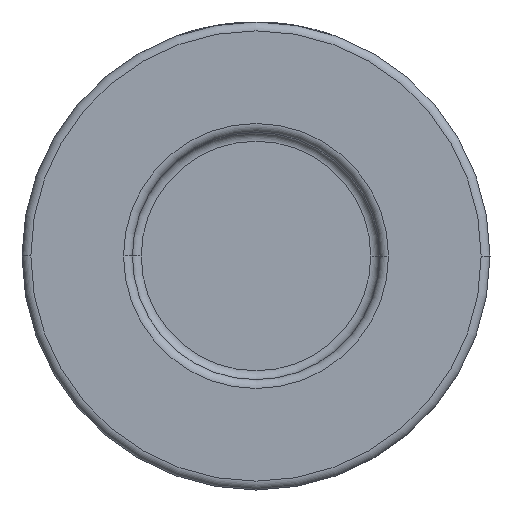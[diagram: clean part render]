
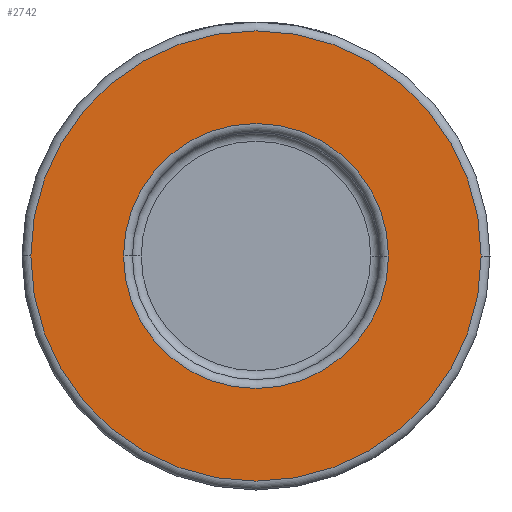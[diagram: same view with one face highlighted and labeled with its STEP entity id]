
A CAD part, front view. The second image highlights one B-rep face of the part: STEP entity #2742.
In plain terms, the highlighted planar face has unit normal (0, -1, 0).
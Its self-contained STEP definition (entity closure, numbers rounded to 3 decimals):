
#21 = ORIENTED_EDGE ( 'NONE', *, *, #1893, .T. ) ;
#25 = DIRECTION ( 'NONE',  ( 1., 0., 0. ) ) ;
#32 = CARTESIAN_POINT ( 'NONE',  ( 0., -16., 0. ) ) ;
#280 = ORIENTED_EDGE ( 'NONE', *, *, #3010, .T. ) ;
#364 = DIRECTION ( 'NONE',  ( 0., -1., 0. ) ) ;
#377 = CARTESIAN_POINT ( 'NONE',  ( 0., -16., 0. ) ) ;
#557 = ORIENTED_EDGE ( 'NONE', *, *, #1273, .T. ) ;
#623 = CIRCLE ( 'NONE', #3132, 15. ) ;
#710 = CARTESIAN_POINT ( 'NONE',  ( 25.5, -16., 0. ) ) ;
#761 = CARTESIAN_POINT ( 'NONE',  ( 0., -16., 0. ) ) ;
#967 = CIRCLE ( 'NONE', #1327, 25.5 ) ;
#992 = CARTESIAN_POINT ( 'NONE',  ( -25.5, -16., 0. ) ) ;
#1022 = VERTEX_POINT ( 'NONE', #992 ) ;
#1037 = FACE_BOUND ( 'NONE', #3681, .T. ) ;
#1061 = DIRECTION ( 'NONE',  ( 1., 0., 0. ) ) ;
#1159 = VERTEX_POINT ( 'NONE', #2257 ) ;
#1271 = AXIS2_PLACEMENT_3D ( 'NONE', #377, #3844, #2156 ) ;
#1273 = EDGE_CURVE ( 'NONE', #4358, #1159, #623, .T. ) ;
#1327 = AXIS2_PLACEMENT_3D ( 'NONE', #32, #1552, #2209 ) ;
#1328 = EDGE_CURVE ( 'NONE', #1022, #3243, #1931, .T. ) ;
#1454 = DIRECTION ( 'NONE',  ( 1., 0., 0. ) ) ;
#1552 = DIRECTION ( 'NONE',  ( 0., -1., 0. ) ) ;
#1826 = CIRCLE ( 'NONE', #2326, 15. ) ;
#1893 = EDGE_CURVE ( 'NONE', #3243, #1022, #967, .T. ) ;
#1931 = CIRCLE ( 'NONE', #1271, 25.5 ) ;
#2099 = CARTESIAN_POINT ( 'NONE',  ( 0., -16., 0. ) ) ;
#2121 = DIRECTION ( 'NONE',  ( 0., 1., 0. ) ) ;
#2156 = DIRECTION ( 'NONE',  ( 1., 0., 0. ) ) ;
#2209 = DIRECTION ( 'NONE',  ( 1., 0., 0. ) ) ;
#2257 = CARTESIAN_POINT ( 'NONE',  ( 15., -16., 0. ) ) ;
#2326 = AXIS2_PLACEMENT_3D ( 'NONE', #2099, #2121, #25 ) ;
#2471 = AXIS2_PLACEMENT_3D ( 'NONE', #3432, #364, #1061 ) ;
#2742 = ADVANCED_FACE ( 'NONE', ( #1037, #3815 ), #3481, .T. ) ;
#2791 = EDGE_LOOP ( 'NONE', ( #21, #3177 ) ) ;
#2813 = DIRECTION ( 'NONE',  ( 0., 1., 0. ) ) ;
#3010 = EDGE_CURVE ( 'NONE', #1159, #4358, #1826, .T. ) ;
#3132 = AXIS2_PLACEMENT_3D ( 'NONE', #761, #2813, #1454 ) ;
#3177 = ORIENTED_EDGE ( 'NONE', *, *, #1328, .T. ) ;
#3243 = VERTEX_POINT ( 'NONE', #710 ) ;
#3432 = CARTESIAN_POINT ( 'NONE',  ( 26.5, -16., 0. ) ) ;
#3481 = PLANE ( 'NONE',  #2471 ) ;
#3681 = EDGE_LOOP ( 'NONE', ( #280, #557 ) ) ;
#3815 = FACE_OUTER_BOUND ( 'NONE', #2791, .T. ) ;
#3844 = DIRECTION ( 'NONE',  ( 0., -1., 0. ) ) ;
#4169 = CARTESIAN_POINT ( 'NONE',  ( -15., -16., 0. ) ) ;
#4358 = VERTEX_POINT ( 'NONE', #4169 ) ;
